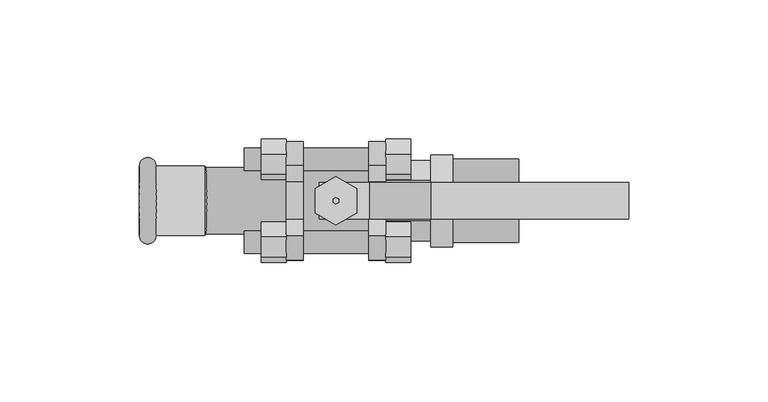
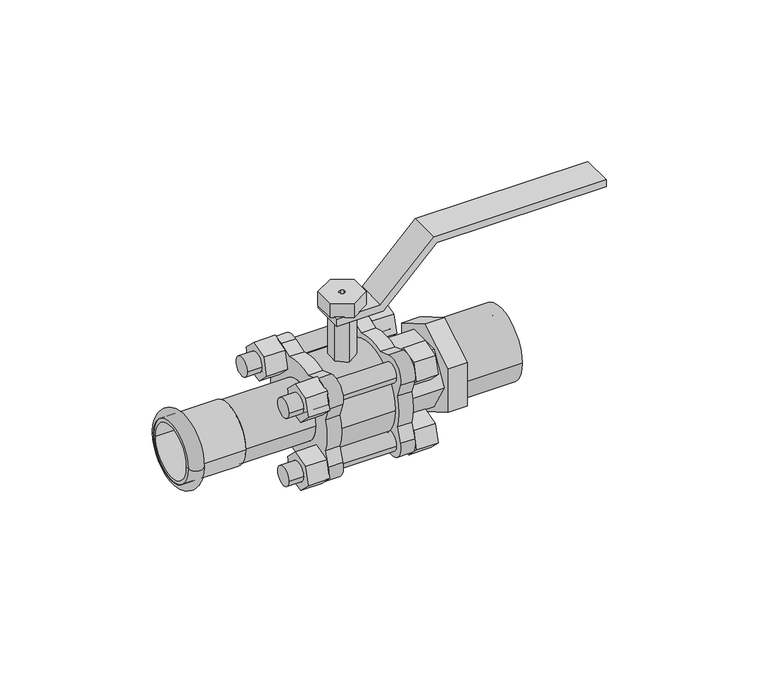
"""IFC4 building model written with IfcOpenShell, lengths in millimetres: valve geometry."""

from ifc_helpers import new_model, si_unit, point, frame, frame_2d, origin, origin_2d, place, context, project, spatial, polyline, circle_curve, ellipse_curve, trimmed, segment, composite_curve, outline, extrude, source, transform, mapped, element, save
from ifc_brep_helpers import plane_surface, cylinder_surface, revolved_surface, advanced_brep


def valve_11d08b45(model_context):
    return source(origin(), model_context, "Body", "SolidModel", [
        extrude(outline(polyline([(36.0, 13.2426407), (58.0, 35.2426407), (58.0, 105.0), (61.0, 105.0), (61.0, 34.0), (39.0, 12.0), (39.0, -6.0), (36.0, -6.0), (36.0, 13.2426407)])), frame((0.0, -6.5625, 0.0), z_axis=(0.0, 1.0, 0.0), x_axis=(0.0, 0.0, 1.0)), (0.0, 0.0, 1.0), 13.125),
        advanced_brep(
        [(-70.5, 12.5, 0.0), (-70.5, -12.5, 0.0), (-64.4987073, -12.5, 0.0), (-64.4987073, 12.5, 0.0)],
        [
            (0, 1, circle_curve(frame((-70.5, 0.0, 0.0), z_axis=(-1.0, 0.0, 0.0), x_axis=(0.0, -1.0, 0.0)), 12.5)),
            (1, 2),
            (2, 3, circle_curve(frame((-64.4987073, 0.0, 0.0), z_axis=(1.0, 0.0, 0.0), x_axis=(0.0, -1.0, 0.0)), 12.5)),
            (3, 0),
            (1, 0, circle_curve(frame((-70.5, 0.0, 0.0), z_axis=(-1.0, 0.0, 0.0), x_axis=(0.0, -1.0, 0.0)), 12.5)),
            (3, 2, circle_curve(frame((-64.4987073, 0.0, 0.0), z_axis=(1.0, 0.0, 0.0), x_axis=(0.0, -1.0, 0.0)), 12.5)),
            (2, 1, circle_curve(frame((-67.4993536, -12.5, 0.0), z_axis=(0.0, 0.0, -1.0), x_axis=(-1.0, 0.0, 0.0)), 3.0006464)),
            (0, 3, circle_curve(frame((-67.4993536, 12.5, 0.0), z_axis=(0.0, 0.0, -1.0), x_axis=(-1.0, 0.0, 0.0)), 3.0006464)),
        ],
        [
            revolved_surface(polyline([(-64.4987073, -12.5, 0.0), (-70.5, -12.5, 0.0)]), (-47.0, 0.0, 0.0), (1.0, 0.0, 0.0)),
            revolved_surface(trimmed(ellipse_curve(frame((-67.4993536, -12.5, 0.0), z_axis=(0.0, 0.0, 1.0), x_axis=(-1.0, 0.0, 0.0)), 3.0006464, 3.0006464), [point((-70.5, -12.5, 0.0))], [point((-64.4987073, -12.5, 0.0))], True, "CARTESIAN"), (-47.0, 0.0, 0.0), (1.0, 0.0, 0.0)),
        ],
        [
            (0, [[1, 2, 3, 4]]),
            (0, [[5, -4, 6, -2]]),
            (1, [[-3, 7, -1, 8]]),
            (1, [[-6, -8, -5, -7]]),
        ],
    ),
        advanced_brep(
        [(-70.5, 11.0, 0.0), (-70.5, -11.0, 0.0), (-46.0, -11.0, 0.0), (-46.0, 11.0, 0.0), (-70.5, 12.5, 0.0), (-70.5, -12.5, 0.0), (-47.0, 12.5, 0.0), (-47.0, -12.5, 0.0)],
        [
            (0, 1, circle_curve(frame((-70.5, 0.0, 0.0), z_axis=(-1.0, 0.0, 0.0), x_axis=(0.0, -1.0, 0.0)), 11.0)),
            (1, 2),
            (2, 3, circle_curve(frame((-46.0, 0.0, 0.0), z_axis=(1.0, 0.0, 0.0), x_axis=(0.0, -1.0, 0.0)), 11.0)),
            (3, 0),
            (1, 0, circle_curve(frame((-70.5, 0.0, 0.0), z_axis=(-1.0, 0.0, 0.0), x_axis=(0.0, -1.0, 0.0)), 11.0)),
            (3, 2, circle_curve(frame((-46.0, 0.0, 0.0), z_axis=(1.0, 0.0, 0.0), x_axis=(0.0, -1.0, 0.0)), 11.0)),
            (4, 5, circle_curve(frame((-70.5, 0.0, 0.0), z_axis=(-1.0, 0.0, 0.0), x_axis=(0.0, -1.0, 0.0)), 12.5)),
            (5, 1),
            (0, 4),
            (5, 4, circle_curve(frame((-70.5, 0.0, 0.0), z_axis=(-1.0, 0.0, 0.0), x_axis=(0.0, -1.0, 0.0)), 12.5)),
            (6, 7, circle_curve(frame((-47.0, 0.0, 0.0), z_axis=(-1.0, 0.0, 0.0), x_axis=(0.0, -1.0, 0.0)), 12.5)),
            (7, 5),
            (4, 6),
            (7, 6, circle_curve(frame((-47.0, 0.0, 0.0), z_axis=(-1.0, 0.0, 0.0), x_axis=(0.0, -1.0, 0.0)), 12.5)),
            (2, 7),
            (6, 3),
        ],
        [
            revolved_surface(polyline([(-46.0, -11.0, 0.0), (-70.5, -11.0, 0.0)]), (-47.0, 0.0, 0.0), (1.0, 0.0, 0.0)),
            plane_surface(frame((-70.5, 0.0, 0.0), z_axis=(-1.0, 0.0, 0.0), x_axis=(0.0, -1.0, 0.0))),
            cylinder_surface(frame((-47.0, 0.0, 0.0), z_axis=(1.0, 0.0, 0.0), x_axis=(0.0, -1.0, 0.0)), 12.5),
            revolved_surface(polyline([(-47.0, -12.5, 0.0), (-46.0, -11.0, 0.0)]), (-47.0, 0.0, 0.0), (1.0, 0.0, 0.0)),
        ],
        [
            (0, [[1, 2, 3, 4]]),
            (0, [[5, -4, 6, -2]]),
            (1, [[7, 8, -1, 9]]),
            (1, [[10, -9, -5, -8]]),
            (2, [[11, 12, -7, 13]]),
            (2, [[14, -13, -10, -12]]),
            (3, [[-3, 15, -11, 16]]),
            (3, [[-6, -16, -14, -15]]),
        ],
    ),
        advanced_brep(
        [(-17.8, -18.8225409, 6.7610617), (-17.8, -20.9572444, 12.6261115), (-17.8, -12.6261115, 20.9572444), (-17.8, -6.7610617, 18.8225409), (-17.8, 6.7610617, 18.8225409), (-17.8, 12.6261115, 20.9572444), (-17.8, 20.9572444, 12.6261115), (-17.8, 18.8225409, 6.7610617), (-17.8, 18.8225409, -6.7610617), (-17.8, 20.9572444, -12.6261115), (-17.8, 12.6261115, -20.9572444), (-17.8, 6.7610617, -18.8225409), (-17.8, -6.7610617, -18.8225409), (-17.8, -12.6261115, -20.9572444), (-17.8, -20.9572444, -12.6261115), (-17.8, -18.8225409, -6.7610617), (-17.8, 12.0, 0.0), (-17.8, -12.0, 0.0), (-11.8, -18.8225409, 6.7610617), (-11.8, -18.8225409, -6.7610617), (-11.8, -20.9572444, -12.6261115), (-11.8, -12.6261115, -20.9572444), (-11.8, -6.7610617, -18.8225409), (-11.8, 6.7610617, -18.8225409), (-11.8, 12.6261115, -20.9572444), (-11.8, 20.9572444, -12.6261115), (-11.8, 18.8225409, -6.7610617), (-11.8, 18.8225409, 6.7610617), (-11.8, 20.9572444, 12.6261115), (-11.8, 12.6261115, 20.9572444), (-11.8, 6.7610617, 18.8225409), (-11.8, -6.7610617, 18.8225409), (-11.8, -12.6261115, 20.9572444), (-11.8, -20.9572444, 12.6261115), (-47.0, -12.0, 0.0), (-47.0, 12.0, 0.0)],
        [
            (0, 1),
            (1, 2, circle_curve(frame((-17.8, -14.8492424, 14.8492424), z_axis=(-1.0, 0.0, 0.0), x_axis=(0.0, 1.0, 0.0)), 6.5)),
            (2, 3),
            (3, 4, circle_curve(frame((-17.8, 0.0, 0.0), z_axis=(-1.0, 0.0, 0.0), x_axis=(0.0, 1.0, 0.0)), 20.0)),
            (4, 5),
            (5, 6, circle_curve(frame((-17.8, 14.8492424, 14.8492424), z_axis=(-1.0, 0.0, 0.0), x_axis=(0.0, 1.0, 0.0)), 6.5)),
            (6, 7),
            (7, 8, circle_curve(frame((-17.8, 0.0, 0.0), z_axis=(-1.0, 0.0, 0.0), x_axis=(0.0, 1.0, 0.0)), 20.0)),
            (8, 9),
            (9, 10, circle_curve(frame((-17.8, 14.8492424, -14.8492424), z_axis=(-1.0, 0.0, 0.0), x_axis=(0.0, 1.0, 0.0)), 6.5)),
            (10, 11),
            (11, 12, circle_curve(frame((-17.8, 0.0, 0.0), z_axis=(-1.0, 0.0, 0.0), x_axis=(0.0, 1.0, 0.0)), 20.0)),
            (12, 13),
            (13, 14, circle_curve(frame((-17.8, -14.8492424, -14.8492424), z_axis=(-1.0, 0.0, 0.0), x_axis=(0.0, 1.0, 0.0)), 6.5)),
            (14, 15),
            (15, 0, circle_curve(frame((-17.8, 0.0, 0.0), z_axis=(-1.0, 0.0, 0.0), x_axis=(0.0, 1.0, 0.0)), 20.0)),
            (16, 17, circle_curve(frame((-17.8, 0.0, 0.0), z_axis=(1.0, 0.0, 0.0), x_axis=(0.0, 1.0, 0.0)), 12.0)),
            (17, 16, circle_curve(frame((-17.8, 0.0, 0.0), z_axis=(1.0, 0.0, 0.0), x_axis=(0.0, 1.0, 0.0)), 12.0)),
            (18, 19, circle_curve(frame((-11.8, 0.0, 0.0), z_axis=(1.0, 0.0, 0.0), x_axis=(0.0, 1.0, 0.0)), 20.0)),
            (19, 20),
            (20, 21, circle_curve(frame((-11.8, -14.8492424, -14.8492424), z_axis=(1.0, 0.0, 0.0), x_axis=(0.0, 1.0, 0.0)), 6.5)),
            (21, 22),
            (22, 23, circle_curve(frame((-11.8, 0.0, 0.0), z_axis=(1.0, 0.0, 0.0), x_axis=(0.0, 1.0, 0.0)), 20.0)),
            (23, 24),
            (24, 25, circle_curve(frame((-11.8, 14.8492424, -14.8492424), z_axis=(1.0, 0.0, 0.0), x_axis=(0.0, 1.0, 0.0)), 6.5)),
            (25, 26),
            (26, 27, circle_curve(frame((-11.8, 0.0, 0.0), z_axis=(1.0, 0.0, 0.0), x_axis=(0.0, 1.0, 0.0)), 20.0)),
            (27, 28),
            (28, 29, circle_curve(frame((-11.8, 14.8492424, 14.8492424), z_axis=(1.0, 0.0, 0.0), x_axis=(0.0, 1.0, 0.0)), 6.5)),
            (29, 30),
            (30, 31, circle_curve(frame((-11.8, 0.0, 0.0), z_axis=(1.0, 0.0, 0.0), x_axis=(0.0, 1.0, 0.0)), 20.0)),
            (31, 32),
            (32, 33, circle_curve(frame((-11.8, -14.8492424, 14.8492424), z_axis=(1.0, 0.0, 0.0), x_axis=(0.0, 1.0, 0.0)), 6.5)),
            (33, 18),
            (0, 18),
            (33, 1),
            (32, 2),
            (31, 3),
            (30, 4),
            (29, 5),
            (28, 6),
            (27, 7),
            (26, 8),
            (25, 9),
            (24, 10),
            (23, 11),
            (22, 12),
            (21, 13),
            (20, 14),
            (19, 15),
            (34, 35, circle_curve(frame((-47.0, 0.0, 0.0), z_axis=(-1.0, 0.0, 0.0), x_axis=(0.0, 1.0, 0.0)), 12.0)),
            (35, 34, circle_curve(frame((-47.0, 0.0, 0.0), z_axis=(-1.0, 0.0, 0.0), x_axis=(0.0, 1.0, 0.0)), 12.0)),
            (34, 17),
            (16, 35),
        ],
        [
            plane_surface(frame((-17.8, 0.0, 0.0), z_axis=(-1.0, 0.0, 0.0), x_axis=(0.0, 0.0, 1.0))),
            plane_surface(frame((-11.8, 0.0, 0.0), z_axis=(1.0, 0.0, 0.0), x_axis=(0.0, 0.0, 1.0))),
            plane_surface(frame((-17.8, -18.8225409, 6.7610617), z_axis=(0.0, -0.939692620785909, -0.34202014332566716), x_axis=(1.0, 0.0, 0.0))),
            cylinder_surface(frame((-17.8, -14.8492424, 14.8492424), z_axis=(-1.0, 0.0, 0.0), x_axis=(0.0, 1.0, 0.0)), 6.5),
            plane_surface(frame((-17.8, -12.6261115, 20.9572444), z_axis=(0.0, 0.34202014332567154, 0.9396926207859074), x_axis=(1.0, 0.0, 0.0))),
            cylinder_surface(frame((-17.8, 0.0, 0.0), z_axis=(-1.0, 0.0, 0.0), x_axis=(0.0, 1.0, 0.0)), 20.0),
            plane_surface(frame((-17.8, 6.7610617, 18.8225409), z_axis=(0.0, -0.34202014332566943, 0.9396926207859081), x_axis=(1.0, 0.0, 0.0))),
            cylinder_surface(frame((-17.8, 14.8492424, 14.8492424), z_axis=(-1.0, 0.0, 0.0), x_axis=(0.0, 1.0, 0.0)), 6.5),
            plane_surface(frame((-17.8, 20.9572444, 12.6261115), z_axis=(0.0, 0.9396926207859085, -0.3420201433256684), x_axis=(1.0, 0.0, 0.0))),
            plane_surface(frame((-17.8, 18.8225409, -6.7610617), z_axis=(0.0, 0.939692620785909, 0.3420201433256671), x_axis=(1.0, 0.0, 0.0))),
            cylinder_surface(frame((-17.8, 14.8492424, -14.8492424), z_axis=(-1.0, 0.0, 0.0), x_axis=(0.0, 1.0, 0.0)), 6.5),
            plane_surface(frame((-17.8, 12.6261115, -20.9572444), z_axis=(0.0, -0.3420201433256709, -0.9396926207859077), x_axis=(1.0, 0.0, 0.0))),
            plane_surface(frame((-17.8, -6.7610617, -18.8225409), z_axis=(0.0, 0.3420201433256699, -0.9396926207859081), x_axis=(1.0, 0.0, 0.0))),
            cylinder_surface(frame((-17.8, -14.8492424, -14.8492424), z_axis=(-1.0, 0.0, 0.0), x_axis=(0.0, 1.0, 0.0)), 6.5),
            plane_surface(frame((-17.8, -20.9572444, -12.6261115), z_axis=(0.0, -0.9396926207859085, 0.3420201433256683), x_axis=(1.0, 0.0, 0.0))),
            plane_surface(frame((-47.0, 0.0, 0.0), z_axis=(-1.0, 0.0, 0.0), x_axis=(0.0, 0.0, 1.0))),
            cylinder_surface(frame((-47.0, 0.0, 0.0), z_axis=(-1.0, 0.0, 0.0), x_axis=(0.0, 1.0, 0.0)), 12.0),
        ],
        [
            (0, [[1, 2, 3, 4, 5, 6, 7, 8, 9, 10, 11, 12, 13, 14, 15, 16], [17, 18]]),
            (1, [[19, 20, 21, 22, 23, 24, 25, 26, 27, 28, 29, 30, 31, 32, 33, 34]]),
            (2, [[-1, 35, -34, 36]]),
            (3, [[-2, -36, -33, 37]]),
            (4, [[-3, -37, -32, 38]]),
            (5, [[-4, -38, -31, 39]]),
            (6, [[-5, -39, -30, 40]]),
            (7, [[-6, -40, -29, 41]]),
            (8, [[-7, -41, -28, 42]]),
            (5, [[-8, -42, -27, 43]]),
            (9, [[-9, -43, -26, 44]]),
            (10, [[-10, -44, -25, 45]]),
            (11, [[-11, -45, -24, 46]]),
            (5, [[-12, -46, -23, 47]]),
            (12, [[-13, -47, -22, 48]]),
            (13, [[-14, -48, -21, 49]]),
            (14, [[-15, -49, -20, 50]]),
            (5, [[-16, -50, -19, -35]]),
            (15, [[51, 52]]),
            (16, [[-51, 53, -17, 54]]),
            (16, [[-52, -54, -18, -53]]),
        ],
    ),
        extrude(outline(composite_curve([segment(trimmed(circle_curve(origin_2d(), 15.0), [point((-15.0, 0.0))], [point((15.0, 0.0))], False, "CARTESIAN"), True, "CONTINUOUS"), segment(trimmed(circle_curve(origin_2d(), 15.0), [point((15.0, 0.0))], [point((-15.0, 0.0))], False, "CARTESIAN"), True, "CONTINUOUS")], self_intersect=False), holes=[composite_curve([segment(trimmed(circle_curve(origin_2d(), 10.0), [point((-10.0, 0.0))], [point((10.0, 0.0))], True, "CARTESIAN"), True, "CONTINUOUS"), segment(trimmed(circle_curve(origin_2d(), 10.0), [point((10.0, 0.0))], [point((-10.0, 0.0))], True, "CARTESIAN"), True, "CONTINUOUS")], self_intersect=False)]), frame((42.0, 0.0, 0.0), z_axis=(1.0, 0.0, 0.0), x_axis=(0.0, 1.0, 0.0)), (0.0, 0.0, 1.0), 23.5),
        extrude(outline(polyline([(16.5, -9.5262794), (0.0, -19.0525589), (-16.5, -9.5262794), (-16.5, 9.5262794), (0.0, 19.0525589), (16.5, 9.5262794), (16.5, -9.5262794)]), holes=[composite_curve([segment(trimmed(circle_curve(origin_2d(), 10.0), [point((10.0, 0.0))], [point((-10.0, 0.0))], True, "CARTESIAN"), True, "CONTINUOUS"), segment(trimmed(circle_curve(origin_2d(), 10.0), [point((-10.0, 0.0))], [point((10.0, 0.0))], True, "CARTESIAN"), True, "CONTINUOUS")], self_intersect=False)]), frame((34.0, 0.0, 0.0), z_axis=(1.0, 0.0, 0.0), x_axis=(0.0, 1.0, 0.0)), (0.0, 0.0, 1.0), 8.0),
        advanced_brep(
        [(11.8, -18.8225409, 6.7610617), (11.8, -20.9572444, 12.6261115), (11.8, -12.6261115, 20.9572444), (11.8, -6.7610617, 18.8225409), (11.8, 6.7610617, 18.8225409), (11.8, 12.6261115, 20.9572444), (11.8, 20.9572444, 12.6261115), (11.8, 18.8225409, 6.7610617), (11.8, 18.8225409, -6.7610617), (11.8, 20.9572444, -12.6261115), (11.8, 12.6261115, -20.9572444), (11.8, 6.7610617, -18.8225409), (11.8, -6.7610617, -18.8225409), (11.8, -12.6261115, -20.9572444), (11.8, -20.9572444, -12.6261115), (11.8, -18.8225409, -6.7610617), (11.8, -14.4337567, 0.0), (11.8, -7.2168784, -12.5), (11.8, 7.2168784, -12.5), (11.8, 14.4337567, 0.0), (11.8, 7.2168784, 12.5), (11.8, -7.2168784, 12.5), (11.8, -1.1547005, -2.0), (11.8, -2.3094011, 0.0), (11.8, -1.1547005, 2.0), (11.8, 1.1547005, 2.0), (11.8, 2.3094011, 0.0), (11.8, 1.1547005, -2.0), (17.8, -18.8225409, 6.7610617), (17.8, -18.8225409, -6.7610617), (17.8, -20.9572444, -12.6261115), (17.8, -12.6261115, -20.9572444), (17.8, -6.7610617, -18.8225409), (17.8, 6.7610617, -18.8225409), (17.8, 12.6261115, -20.9572444), (17.8, 20.9572444, -12.6261115), (17.8, 18.8225409, -6.7610617), (17.8, 18.8225409, 6.7610617), (17.8, 20.9572444, 12.6261115), (17.8, 12.6261115, 20.9572444), (17.8, 6.7610617, 18.8225409), (17.8, -6.7610617, 18.8225409), (17.8, -12.6261115, 20.9572444), (17.8, -20.9572444, 12.6261115), (17.8, -7.2168784, -12.5), (17.8, -14.4337567, 0.0), (17.8, -7.2168784, 12.5), (17.8, 7.2168784, 12.5), (17.8, 14.4337567, 0.0), (17.8, 7.2168784, -12.5), (17.8, -2.3094011, 0.0), (17.8, -1.1547005, -2.0), (17.8, 1.1547005, -2.0), (17.8, 2.3094011, 0.0), (17.8, 1.1547005, 2.0), (17.8, -1.1547005, 2.0), (0.0, -1.1547005, -2.0), (0.0, -2.3094011, 0.0), (34.0, -2.3094011, 0.0), (34.0, -1.1547005, -2.0), (34.0, -7.2168784, -12.5), (34.0, -14.4337567, 0.0), (0.0, -14.4337567, 0.0), (0.0, -7.2168784, -12.5), (0.0, -1.1547005, 2.0), (34.0, -1.1547005, 2.0), (34.0, -7.2168784, 12.5), (0.0, -7.2168784, 12.5), (0.0, 1.1547005, 2.0), (34.0, 1.1547005, 2.0), (34.0, 7.2168784, 12.5), (0.0, 7.2168784, 12.5), (0.0, 2.3094011, 0.0), (34.0, 2.3094011, 0.0), (34.0, 14.4337567, 0.0), (0.0, 14.4337567, 0.0), (0.0, 1.1547005, -2.0), (34.0, 1.1547005, -2.0), (34.0, 7.2168784, -12.5), (0.0, 7.2168784, -12.5)],
        [
            (0, 1),
            (1, 2, circle_curve(frame((11.8, -14.8492424, 14.8492424), z_axis=(-1.0, 0.0, 0.0), x_axis=(0.0, 1.0, 0.0)), 6.5)),
            (2, 3),
            (3, 4, circle_curve(frame((11.8, 0.0, 0.0), z_axis=(-1.0, 0.0, 0.0), x_axis=(0.0, 1.0, 0.0)), 20.0)),
            (4, 5),
            (5, 6, circle_curve(frame((11.8, 14.8492424, 14.8492424), z_axis=(-1.0, 0.0, 0.0), x_axis=(0.0, 1.0, 0.0)), 6.5)),
            (6, 7),
            (7, 8, circle_curve(frame((11.8, 0.0, 0.0), z_axis=(-1.0, 0.0, 0.0), x_axis=(0.0, 1.0, 0.0)), 20.0)),
            (8, 9),
            (9, 10, circle_curve(frame((11.8, 14.8492424, -14.8492424), z_axis=(-1.0, 0.0, 0.0), x_axis=(0.0, 1.0, 0.0)), 6.5)),
            (10, 11),
            (11, 12, circle_curve(frame((11.8, 0.0, 0.0), z_axis=(-1.0, 0.0, 0.0), x_axis=(0.0, 1.0, 0.0)), 20.0)),
            (12, 13),
            (13, 14, circle_curve(frame((11.8, -14.8492424, -14.8492424), z_axis=(-1.0, 0.0, 0.0), x_axis=(0.0, 1.0, 0.0)), 6.5)),
            (14, 15),
            (15, 0, circle_curve(frame((11.8, 0.0, 0.0), z_axis=(-1.0, 0.0, 0.0), x_axis=(0.0, 1.0, 0.0)), 20.0)),
            (16, 17),
            (17, 18),
            (18, 19),
            (19, 20),
            (20, 21),
            (21, 16),
            (22, 23),
            (23, 24),
            (24, 25),
            (25, 26),
            (26, 27),
            (27, 22),
            (28, 29, circle_curve(frame((17.8, 0.0, 0.0), z_axis=(1.0, 0.0, 0.0), x_axis=(0.0, 1.0, 0.0)), 20.0)),
            (29, 30),
            (30, 31, circle_curve(frame((17.8, -14.8492424, -14.8492424), z_axis=(1.0, 0.0, 0.0), x_axis=(0.0, 1.0, 0.0)), 6.5)),
            (31, 32),
            (32, 33, circle_curve(frame((17.8, 0.0, 0.0), z_axis=(1.0, 0.0, 0.0), x_axis=(0.0, 1.0, 0.0)), 20.0)),
            (33, 34),
            (34, 35, circle_curve(frame((17.8, 14.8492424, -14.8492424), z_axis=(1.0, 0.0, 0.0), x_axis=(0.0, 1.0, 0.0)), 6.5)),
            (35, 36),
            (36, 37, circle_curve(frame((17.8, 0.0, 0.0), z_axis=(1.0, 0.0, 0.0), x_axis=(0.0, 1.0, 0.0)), 20.0)),
            (37, 38),
            (38, 39, circle_curve(frame((17.8, 14.8492424, 14.8492424), z_axis=(1.0, 0.0, 0.0), x_axis=(0.0, 1.0, 0.0)), 6.5)),
            (39, 40),
            (40, 41, circle_curve(frame((17.8, 0.0, 0.0), z_axis=(1.0, 0.0, 0.0), x_axis=(0.0, 1.0, 0.0)), 20.0)),
            (41, 42),
            (42, 43, circle_curve(frame((17.8, -14.8492424, 14.8492424), z_axis=(1.0, 0.0, 0.0), x_axis=(0.0, 1.0, 0.0)), 6.5)),
            (43, 28),
            (44, 45),
            (45, 46),
            (46, 47),
            (47, 48),
            (48, 49),
            (49, 44),
            (50, 51),
            (51, 52),
            (52, 53),
            (53, 54),
            (54, 55),
            (55, 50),
            (0, 28),
            (43, 1),
            (42, 2),
            (41, 3),
            (40, 4),
            (39, 5),
            (38, 6),
            (37, 7),
            (36, 8),
            (35, 9),
            (34, 10),
            (33, 11),
            (32, 12),
            (31, 13),
            (30, 14),
            (29, 15),
            (56, 57),
            (57, 23),
            (22, 56),
            (58, 59),
            (59, 51),
            (50, 58),
            (60, 61),
            (61, 45),
            (44, 60),
            (62, 63),
            (63, 17),
            (16, 62),
            (57, 64),
            (64, 24),
            (65, 58),
            (55, 65),
            (61, 66),
            (66, 46),
            (67, 62),
            (21, 67),
            (64, 68),
            (68, 25),
            (69, 65),
            (54, 69),
            (66, 70),
            (70, 47),
            (71, 67),
            (20, 71),
            (68, 72),
            (72, 26),
            (73, 69),
            (53, 73),
            (70, 74),
            (74, 48),
            (75, 71),
            (19, 75),
            (72, 76),
            (76, 27),
            (77, 73),
            (52, 77),
            (74, 78),
            (78, 49),
            (79, 75),
            (18, 79),
            (60, 78),
            (77, 59),
            (76, 56),
            (79, 63),
        ],
        [
            plane_surface(frame((11.8, 0.0, 0.0), z_axis=(-1.0, 0.0, 0.0), x_axis=(0.0, 0.0, 1.0))),
            plane_surface(frame((17.8, 0.0, 0.0), z_axis=(1.0, 0.0, 0.0), x_axis=(0.0, 0.0, 1.0))),
            plane_surface(frame((11.8, -18.8225409, 6.7610617), z_axis=(0.0, -0.939692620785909, -0.34202014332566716), x_axis=(1.0, 0.0, 0.0))),
            cylinder_surface(frame((11.8, -14.8492424, 14.8492424), z_axis=(-1.0, 0.0, 0.0), x_axis=(0.0, 1.0, 0.0)), 6.5),
            plane_surface(frame((11.8, -12.6261115, 20.9572444), z_axis=(0.0, 0.34202014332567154, 0.9396926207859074), x_axis=(1.0, 0.0, 0.0))),
            cylinder_surface(frame((11.8, 0.0, 0.0), z_axis=(-1.0, 0.0, 0.0), x_axis=(0.0, 1.0, 0.0)), 20.0),
            plane_surface(frame((11.8, 6.7610617, 18.8225409), z_axis=(0.0, -0.34202014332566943, 0.9396926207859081), x_axis=(1.0, 0.0, 0.0))),
            cylinder_surface(frame((11.8, 14.8492424, 14.8492424), z_axis=(-1.0, 0.0, 0.0), x_axis=(0.0, 1.0, 0.0)), 6.5),
            plane_surface(frame((11.8, 20.9572444, 12.6261115), z_axis=(0.0, 0.9396926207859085, -0.3420201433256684), x_axis=(1.0, 0.0, 0.0))),
            plane_surface(frame((11.8, 18.8225409, -6.7610617), z_axis=(0.0, 0.939692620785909, 0.3420201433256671), x_axis=(1.0, 0.0, 0.0))),
            cylinder_surface(frame((11.8, 14.8492424, -14.8492424), z_axis=(-1.0, 0.0, 0.0), x_axis=(0.0, 1.0, 0.0)), 6.5),
            plane_surface(frame((11.8, 12.6261115, -20.9572444), z_axis=(0.0, -0.3420201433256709, -0.9396926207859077), x_axis=(1.0, 0.0, 0.0))),
            plane_surface(frame((11.8, -6.7610617, -18.8225409), z_axis=(0.0, 0.3420201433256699, -0.9396926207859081), x_axis=(1.0, 0.0, 0.0))),
            cylinder_surface(frame((11.8, -14.8492424, -14.8492424), z_axis=(-1.0, 0.0, 0.0), x_axis=(0.0, 1.0, 0.0)), 6.5),
            plane_surface(frame((11.8, -20.9572444, -12.6261115), z_axis=(0.0, -0.9396926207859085, 0.3420201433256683), x_axis=(1.0, 0.0, 0.0))),
            plane_surface(frame((0.0, -1.1547005, -2.0), z_axis=(0.0, 0.8660254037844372, 0.5000000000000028), x_axis=(0.0, -0.5000000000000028, 0.8660254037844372))),
            plane_surface(frame((34.0, -7.2168784, -12.5), z_axis=(0.0, -0.866025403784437, -0.5000000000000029), x_axis=(0.0, -0.5000000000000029, 0.866025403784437))),
            plane_surface(frame((0.0, -2.3094011, 0.0), z_axis=(0.0, 0.8660254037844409, -0.49999999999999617), x_axis=(0.0, 0.49999999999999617, 0.8660254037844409))),
            plane_surface(frame((34.0, -14.4337567, 0.0), z_axis=(0.0, -0.866025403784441, 0.49999999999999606), x_axis=(0.0, 0.49999999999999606, 0.866025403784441))),
            plane_surface(frame((0.0, -1.1547005, 2.0), z_axis=(0.0, 0.0, -1.0), x_axis=(0.0, 1.0, 0.0))),
            plane_surface(frame((34.0, -7.2168784, 12.5), z_axis=(0.0, 0.0, 1.0), x_axis=(0.0, 1.0, 0.0))),
            plane_surface(frame((0.0, 1.1547005, 2.0), z_axis=(0.0, -0.8660254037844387, -0.4999999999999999), x_axis=(0.0, 0.4999999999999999, -0.8660254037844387))),
            plane_surface(frame((34.0, 7.2168784, 12.5), z_axis=(0.0, 0.8660254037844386, 0.5000000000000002), x_axis=(0.0, 0.5000000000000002, -0.8660254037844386))),
            plane_surface(frame((0.0, 2.3094011, 0.0), z_axis=(0.0, -0.8660254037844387, 0.5), x_axis=(0.0, -0.5, -0.8660254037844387))),
            plane_surface(frame((34.0, 14.4337567, 0.0), z_axis=(0.0, 0.8660254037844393, -0.49999999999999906), x_axis=(0.0, -0.49999999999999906, -0.8660254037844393))),
            plane_surface(frame((34.0, 1.1547005, -2.0), z_axis=(1.0, 0.0, 0.0), x_axis=(0.0, -1.0, 0.0))),
            plane_surface(frame((0.0, 1.1547005, -2.0), z_axis=(0.0, 0.0, 1.0), x_axis=(0.0, -1.0, 0.0))),
            plane_surface(frame((0.0, 7.2168784, -12.5), z_axis=(-1.0, 0.0, 0.0), x_axis=(0.0, -1.0, 0.0))),
            plane_surface(frame((34.0, 7.2168784, -12.5), z_axis=(0.0, 0.0, -1.0), x_axis=(0.0, -1.0, 0.0))),
        ],
        [
            (0, [[1, 2, 3, 4, 5, 6, 7, 8, 9, 10, 11, 12, 13, 14, 15, 16], [17, 18, 19, 20, 21, 22]]),
            (0, [[23, 24, 25, 26, 27, 28]]),
            (1, [[29, 30, 31, 32, 33, 34, 35, 36, 37, 38, 39, 40, 41, 42, 43, 44], [45, 46, 47, 48, 49, 50]]),
            (1, [[51, 52, 53, 54, 55, 56]]),
            (2, [[-1, 57, -44, 58]]),
            (3, [[-2, -58, -43, 59]]),
            (4, [[-3, -59, -42, 60]]),
            (5, [[-4, -60, -41, 61]]),
            (6, [[-5, -61, -40, 62]]),
            (7, [[-6, -62, -39, 63]]),
            (8, [[-7, -63, -38, 64]]),
            (5, [[-8, -64, -37, 65]]),
            (9, [[-9, -65, -36, 66]]),
            (10, [[-10, -66, -35, 67]]),
            (11, [[-11, -67, -34, 68]]),
            (5, [[-12, -68, -33, 69]]),
            (12, [[-13, -69, -32, 70]]),
            (13, [[-14, -70, -31, 71]]),
            (14, [[-15, -71, -30, 72]]),
            (5, [[-16, -72, -29, -57]]),
            (15, [[73, 74, -23, 75]]),
            (15, [[76, 77, -51, 78]]),
            (16, [[79, 80, -45, 81]]),
            (16, [[82, 83, -17, 84]]),
            (17, [[85, 86, -24, -74]]),
            (17, [[87, -78, -56, 88]]),
            (18, [[89, 90, -46, -80]]),
            (18, [[91, -84, -22, 92]]),
            (19, [[93, 94, -25, -86]]),
            (19, [[95, -88, -55, 96]]),
            (20, [[97, 98, -47, -90]]),
            (20, [[99, -92, -21, 100]]),
            (21, [[101, 102, -26, -94]]),
            (21, [[103, -96, -54, 104]]),
            (22, [[105, 106, -48, -98]]),
            (22, [[107, -100, -20, 108]]),
            (23, [[109, 110, -27, -102]]),
            (23, [[111, -104, -53, 112]]),
            (24, [[113, 114, -49, -106]]),
            (24, [[115, -108, -19, 116]]),
            (25, [[-79, 117, -113, -105, -97, -89], [-76, -87, -95, -103, -111, 118]]),
            (26, [[-118, -112, -52, -77]]),
            (26, [[119, -75, -28, -110]]),
            (27, [[-82, -91, -99, -107, -115, 120], [-73, -119, -109, -101, -93, -85]]),
            (28, [[-117, -81, -50, -114]]),
            (28, [[-120, -116, -18, -83]]),
        ],
    ),
        advanced_brep(
        [(-11.8, -18.0, 0.0), (-11.8, 18.0, 0.0), (11.8, -18.0, 0.0), (11.8, 18.0, 0.0), (0.0, -5.1961524, 17.2336879), (-4.5, -2.5980762, 17.8115131), (-4.5, 2.5980762, 17.8115131), (0.0, 5.1961524, 17.2336879), (4.5, 2.5980762, 17.8115131), (4.5, -2.5980762, 17.8115131), (-1.0, -0.5773503, 17.9907384), (0.0, -1.1547005, 17.9629248), (1.0, -0.5773503, 17.9907384), (1.0, 0.5773503, 17.9907384), (0.0, 1.1547005, 17.9629248), (-1.0, 0.5773503, 17.9907384), (-7.5, -4.330127, 45.0), (-7.5, -4.330127, 39.0), (0.0, -8.660254, 39.0), (0.0, -8.660254, 45.0), (-1.0, -0.5773503, 45.0), (0.0, -1.1547005, 45.0), (0.0, -5.1961524, 39.0), (-4.5, -2.5980762, 39.0), (7.5, -4.330127, 39.0), (7.5, -4.330127, 45.0), (1.0, -0.5773503, 45.0), (4.5, -2.5980762, 39.0), (7.5, 4.330127, 45.0), (7.5, 4.330127, 39.0), (0.0, 8.660254, 39.0), (0.0, 8.660254, 45.0), (1.0, 0.5773503, 45.0), (0.0, 1.1547005, 45.0), (0.0, 5.1961524, 39.0), (4.5, 2.5980762, 39.0), (-7.5, 4.330127, 39.0), (-7.5, 4.330127, 45.0), (-1.0, 0.5773503, 45.0), (-4.5, 2.5980762, 39.0)],
        [
            (0, 1, circle_curve(frame((-11.8, 0.0, 0.0), z_axis=(-1.0, 0.0, 0.0), x_axis=(0.0, 1.0, 0.0)), 18.0)),
            (1, 0, circle_curve(frame((-11.8, 0.0, 0.0), z_axis=(-1.0, 0.0, 0.0), x_axis=(0.0, 1.0, 0.0)), 18.0)),
            (2, 3, circle_curve(frame((11.8, 0.0, 0.0), z_axis=(1.0, 0.0, 0.0), x_axis=(0.0, 1.0, 0.0)), 18.0)),
            (3, 2, circle_curve(frame((11.8, 0.0, 0.0), z_axis=(1.0, 0.0, 0.0), x_axis=(0.0, 1.0, 0.0)), 18.0)),
            (0, 2),
            (3, 1),
            (4, 5, ellipse_curve(frame((-9.0, 0.0, 0.0), z_axis=(-0.5000000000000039, -0.8660254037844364, 0.0), x_axis=(-0.8660254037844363, 0.5000000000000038, 0.0)), 36.0, 18.0)),
            (5, 6, circle_curve(frame((-4.5, 0.0, 0.0), z_axis=(-1.0, 0.0, 0.0), x_axis=(0.0, 1.0, 0.0)), 18.0)),
            (6, 7, ellipse_curve(frame((-9.0, 0.0, 0.0), z_axis=(-0.49999999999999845, 0.8660254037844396, 0.0), x_axis=(-0.8660254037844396, -0.4999999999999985, 0.0)), 36.0, 18.0)),
            (7, 8, ellipse_curve(frame((9.0, 0.0, 0.0), z_axis=(0.5000000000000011, 0.866025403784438, 0.0), x_axis=(-0.8660254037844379, 0.5000000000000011, 0.0)), 36.0, 18.0)),
            (8, 9, circle_curve(frame((4.5, 0.0, 0.0), z_axis=(1.0, 0.0, 0.0), x_axis=(0.0, 1.0, 0.0)), 18.0)),
            (9, 4, ellipse_curve(frame((9.0, 0.0, 0.0), z_axis=(0.4999999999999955, -0.8660254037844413, 0.0), x_axis=(-0.8660254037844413, -0.49999999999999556, 0.0)), 36.0, 18.0)),
            (10, 11, ellipse_curve(frame((-2.0, 0.0, 0.0), z_axis=(0.5000000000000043, 0.8660254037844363, 0.0), x_axis=(-0.866025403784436, 0.5000000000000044, 0.0)), 36.0, 18.0)),
            (11, 12, ellipse_curve(frame((2.0, 0.0, 0.0), z_axis=(-0.4999999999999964, 0.8660254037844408, 0.0), x_axis=(-0.8660254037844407, -0.4999999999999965, 0.0)), 36.0, 18.0)),
            (12, 13, circle_curve(frame((1.0, 0.0, 0.0), z_axis=(-1.0, 0.0, 0.0), x_axis=(0.0, 1.0, 0.0)), 18.0)),
            (13, 14, ellipse_curve(frame((2.0, 0.0, 0.0), z_axis=(-0.49999999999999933, -0.866025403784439, 0.0), x_axis=(-0.866025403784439, 0.4999999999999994, 0.0)), 36.0, 18.0)),
            (14, 15, ellipse_curve(frame((-2.0, 0.0, 0.0), z_axis=(0.49999999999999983, -0.8660254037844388, 0.0), x_axis=(-0.8660254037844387, -0.4999999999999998, 0.0)), 36.0, 18.0)),
            (15, 10, circle_curve(frame((-1.0, 0.0, 0.0), z_axis=(1.0, 0.0, 0.0), x_axis=(0.0, 1.0, 0.0)), 18.0)),
            (16, 17),
            (17, 18),
            (18, 19),
            (19, 16),
            (20, 21),
            (21, 11),
            (10, 20),
            (22, 23),
            (23, 5),
            (4, 22),
            (18, 24),
            (24, 25),
            (25, 19),
            (21, 26),
            (26, 12),
            (27, 22),
            (9, 27),
            (28, 29),
            (29, 30),
            (30, 31),
            (31, 28),
            (32, 33),
            (33, 14),
            (13, 32),
            (34, 35),
            (35, 8),
            (7, 34),
            (30, 36),
            (36, 37),
            (37, 31),
            (33, 38),
            (38, 15),
            (39, 34),
            (6, 39),
            (24, 29),
            (28, 25),
            (26, 32),
            (35, 27),
            (17, 36),
            (39, 23),
            (16, 37),
            (20, 38),
        ],
        [
            plane_surface(frame((-11.8, 0.0, 0.0), z_axis=(-1.0, 0.0, 0.0), x_axis=(0.0, 0.0, 1.0))),
            plane_surface(frame((11.8, 0.0, 0.0), z_axis=(1.0, 0.0, 0.0), x_axis=(0.0, 0.0, 1.0))),
            cylinder_surface(frame((-11.8, 0.0, 0.0), z_axis=(-1.0, 0.0, 0.0), x_axis=(0.0, 1.0, 0.0)), 18.0),
            plane_surface(frame((-7.5, -4.330127, 39.0), z_axis=(-0.5000000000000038, -0.8660254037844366, 0.0), x_axis=(0.8660254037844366, -0.5000000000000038, 0.0))),
            plane_surface(frame((-1.0, -0.5773503, 45.0), z_axis=(0.5000000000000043, 0.8660254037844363, 0.0), x_axis=(0.8660254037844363, -0.5000000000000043, 0.0))),
            plane_surface(frame((-4.5, -2.5980762, 0.0), z_axis=(-0.5000000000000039, -0.8660254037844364, 0.0), x_axis=(0.8660254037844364, -0.5000000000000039, 0.0))),
            plane_surface(frame((0.0, -8.660254, 39.0), z_axis=(0.49999999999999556, -0.8660254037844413, 0.0), x_axis=(0.8660254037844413, 0.49999999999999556, 0.0))),
            plane_surface(frame((0.0, -1.1547005, 45.0), z_axis=(-0.4999999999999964, 0.8660254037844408, 0.0), x_axis=(0.8660254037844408, 0.4999999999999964, 0.0))),
            plane_surface(frame((0.0, -5.1961524, 0.0), z_axis=(0.4999999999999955, -0.8660254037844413, 0.0), x_axis=(0.8660254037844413, 0.4999999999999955, 0.0))),
            plane_surface(frame((7.5, 4.330127, 39.0), z_axis=(0.5000000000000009, 0.8660254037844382, 0.0), x_axis=(-0.8660254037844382, 0.5000000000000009, 0.0))),
            plane_surface(frame((1.0, 0.5773503, 45.0), z_axis=(-0.49999999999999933, -0.866025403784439, 0.0), x_axis=(-0.866025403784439, 0.49999999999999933, 0.0))),
            plane_surface(frame((4.5, 2.5980762, 0.0), z_axis=(0.5000000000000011, 0.866025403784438, 0.0), x_axis=(-0.866025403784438, 0.5000000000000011, 0.0))),
            plane_surface(frame((0.0, 8.660254, 39.0), z_axis=(-0.4999999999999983, 0.8660254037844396, 0.0), x_axis=(-0.8660254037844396, -0.4999999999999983, 0.0))),
            plane_surface(frame((0.0, 1.1547005, 45.0), z_axis=(0.49999999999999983, -0.8660254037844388, 0.0), x_axis=(-0.8660254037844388, -0.49999999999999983, 0.0))),
            plane_surface(frame((0.0, 5.1961524, 0.0), z_axis=(-0.49999999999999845, 0.8660254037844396, 0.0), x_axis=(-0.8660254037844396, -0.49999999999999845, 0.0))),
            plane_surface(frame((7.5, -4.330127, 39.0), z_axis=(1.0, 0.0, 0.0), x_axis=(0.0, 1.0, 0.0))),
            plane_surface(frame((1.0, -0.5773503, 45.0), z_axis=(-1.0, 0.0, 0.0), x_axis=(0.0, 1.0, 0.0))),
            plane_surface(frame((4.5, -2.5980762, 0.0), z_axis=(1.0, 0.0, 0.0), x_axis=(0.0, 1.0, 0.0))),
            plane_surface(frame((-4.5, 2.5980762, 39.0), z_axis=(0.0, 0.0, -1.0), x_axis=(0.0, -1.0, 0.0))),
            plane_surface(frame((-7.5, 4.330127, 39.0), z_axis=(-1.0, 0.0, 0.0), x_axis=(0.0, -1.0, 0.0))),
            plane_surface(frame((-7.5, 4.330127, 45.0), z_axis=(0.0, 0.0, 1.0), x_axis=(0.0, -1.0, 0.0))),
            plane_surface(frame((-1.0, 0.5773503, 45.0), z_axis=(1.0, 0.0, 0.0), x_axis=(0.0, -1.0, 0.0))),
            plane_surface(frame((-4.5, 2.5980762, 0.0), z_axis=(-1.0, 0.0, 0.0), x_axis=(0.0, -1.0, 0.0))),
        ],
        [
            (0, [[1, 2]]),
            (1, [[3, 4]]),
            (2, [[-1, 5, -4, 6], [7, 8, 9, 10, 11, 12]]),
            (2, [[13, 14, 15, 16, 17, 18]]),
            (2, [[-2, -6, -3, -5]]),
            (3, [[19, 20, 21, 22]]),
            (4, [[23, 24, -13, 25]]),
            (5, [[26, 27, -7, 28]]),
            (6, [[-21, 29, 30, 31]]),
            (7, [[32, 33, -14, -24]]),
            (8, [[34, -28, -12, 35]]),
            (9, [[36, 37, 38, 39]]),
            (10, [[40, 41, -16, 42]]),
            (11, [[43, 44, -10, 45]]),
            (12, [[-38, 46, 47, 48]]),
            (13, [[49, 50, -17, -41]]),
            (14, [[51, -45, -9, 52]]),
            (15, [[-30, 53, -36, 54]]),
            (16, [[55, -42, -15, -33]]),
            (17, [[56, -35, -11, -44]]),
            (18, [[-20, 57, -46, -37, -53, -29], [-26, -34, -56, -43, -51, 58]]),
            (19, [[-19, 59, -47, -57]]),
            (20, [[-22, -31, -54, -39, -48, -59], [-23, 60, -49, -40, -55, -32]]),
            (21, [[-60, -25, -18, -50]]),
            (22, [[-58, -52, -8, -27]]),
        ],
    ),
        extrude(outline(polyline([(20.1564702, 9.5420146), (12.9066622, 7.5994344), (7.5994344, 12.9066622), (9.5420146, 20.1564702), (16.7918226, 22.0990504), (22.0990504, 16.7918226), (20.1564702, 9.5420146)]), holes=[composite_curve([segment(trimmed(circle_curve(frame_2d((14.8492424, 14.8492424)), 4.0), [point((18.8492424, 14.8492424))], [point((10.8492424, 14.8492424))], True, "CARTESIAN"), True, "CONTINUOUS"), segment(trimmed(circle_curve(frame_2d((14.8492424, 14.8492424)), 4.0), [point((10.8492424, 14.8492424))], [point((18.8492424, 14.8492424))], True, "CARTESIAN"), True, "CONTINUOUS")], self_intersect=False)]), frame((17.8, 0.0, 0.0), z_axis=(1.0, 0.0, 0.0), x_axis=(0.0, 1.0, 0.0)), (0.0, 0.0, 1.0), 9.0),
        extrude(outline(polyline([(-9.5420146, 9.5420146), (-16.7918226, 7.5994344), (-22.0990504, 12.9066622), (-20.1564702, 20.1564702), (-12.9066622, 22.0990504), (-7.5994344, 16.7918226), (-9.5420146, 9.5420146)]), holes=[composite_curve([segment(trimmed(circle_curve(frame_2d((-14.8492424, 14.8492424)), 4.0), [point((-10.8492424, 14.8492424))], [point((-18.8492424, 14.8492424))], True, "CARTESIAN"), True, "CONTINUOUS"), segment(trimmed(circle_curve(frame_2d((-14.8492424, 14.8492424)), 4.0), [point((-18.8492424, 14.8492424))], [point((-10.8492424, 14.8492424))], True, "CARTESIAN"), True, "CONTINUOUS")], self_intersect=False)]), frame((17.8, 0.0, 0.0), z_axis=(1.0, 0.0, 0.0), x_axis=(0.0, 1.0, 0.0)), (0.0, 0.0, 1.0), 9.0),
        extrude(outline(polyline([(-9.5420146, -20.1564702), (-16.7918226, -22.0990504), (-22.0990504, -16.7918226), (-20.1564702, -9.5420146), (-12.9066622, -7.5994344), (-7.5994344, -12.9066622), (-9.5420146, -20.1564702)]), holes=[composite_curve([segment(trimmed(circle_curve(frame_2d((-14.8492424, -14.8492424)), 4.0), [point((-10.8492424, -14.8492424))], [point((-18.8492424, -14.8492424))], True, "CARTESIAN"), True, "CONTINUOUS"), segment(trimmed(circle_curve(frame_2d((-14.8492424, -14.8492424)), 4.0), [point((-18.8492424, -14.8492424))], [point((-10.8492424, -14.8492424))], True, "CARTESIAN"), True, "CONTINUOUS")], self_intersect=False)]), frame((17.8, 0.0, 0.0), z_axis=(1.0, 0.0, 0.0), x_axis=(0.0, 1.0, 0.0)), (0.0, 0.0, 1.0), 9.0),
        extrude(outline(polyline([(20.1564702, -20.1564702), (12.9066622, -22.0990504), (7.5994344, -16.7918226), (9.5420146, -9.5420146), (16.7918226, -7.5994344), (22.0990504, -12.9066622), (20.1564702, -20.1564702)]), holes=[composite_curve([segment(trimmed(circle_curve(frame_2d((14.8492424, -14.8492424)), 4.0), [point((18.8492424, -14.8492424))], [point((10.8492424, -14.8492424))], True, "CARTESIAN"), True, "CONTINUOUS"), segment(trimmed(circle_curve(frame_2d((14.8492424, -14.8492424)), 4.0), [point((10.8492424, -14.8492424))], [point((18.8492424, -14.8492424))], True, "CARTESIAN"), True, "CONTINUOUS")], self_intersect=False)]), frame((17.8, 0.0, 0.0), z_axis=(1.0, 0.0, 0.0), x_axis=(0.0, 1.0, 0.0)), (0.0, 0.0, 1.0), 9.0),
        extrude(outline(polyline([(20.1564702, 9.5420146), (12.9066622, 7.5994344), (7.5994344, 12.9066622), (9.5420146, 20.1564702), (16.7918226, 22.0990504), (22.0990504, 16.7918226), (20.1564702, 9.5420146)]), holes=[composite_curve([segment(trimmed(circle_curve(frame_2d((14.8492424, 14.8492424)), 4.0), [point((18.8492424, 14.8492424))], [point((10.8492424, 14.8492424))], True, "CARTESIAN"), True, "CONTINUOUS"), segment(trimmed(circle_curve(frame_2d((14.8492424, 14.8492424)), 4.0), [point((10.8492424, 14.8492424))], [point((18.8492424, 14.8492424))], True, "CARTESIAN"), True, "CONTINUOUS")], self_intersect=False)]), frame((-26.8, 0.0, 0.0), z_axis=(1.0, 0.0, 0.0), x_axis=(0.0, 1.0, 0.0)), (0.0, 0.0, 1.0), 9.0),
        extrude(outline(polyline([(-9.5420146, 9.5420146), (-16.7918226, 7.5994344), (-22.0990504, 12.9066622), (-20.1564702, 20.1564702), (-12.9066622, 22.0990504), (-7.5994344, 16.7918226), (-9.5420146, 9.5420146)]), holes=[composite_curve([segment(trimmed(circle_curve(frame_2d((-14.8492424, 14.8492424)), 4.0), [point((-10.8492424, 14.8492424))], [point((-18.8492424, 14.8492424))], True, "CARTESIAN"), True, "CONTINUOUS"), segment(trimmed(circle_curve(frame_2d((-14.8492424, 14.8492424)), 4.0), [point((-18.8492424, 14.8492424))], [point((-10.8492424, 14.8492424))], True, "CARTESIAN"), True, "CONTINUOUS")], self_intersect=False)]), frame((-26.8, 0.0, 0.0), z_axis=(1.0, 0.0, 0.0), x_axis=(0.0, 1.0, 0.0)), (0.0, 0.0, 1.0), 9.0),
        extrude(outline(polyline([(-9.5420146, -20.1564702), (-16.7918226, -22.0990504), (-22.0990504, -16.7918226), (-20.1564702, -9.5420146), (-12.9066622, -7.5994344), (-7.5994344, -12.9066622), (-9.5420146, -20.1564702)]), holes=[composite_curve([segment(trimmed(circle_curve(frame_2d((-14.8492424, -14.8492424)), 4.0), [point((-10.8492424, -14.8492424))], [point((-18.8492424, -14.8492424))], True, "CARTESIAN"), True, "CONTINUOUS"), segment(trimmed(circle_curve(frame_2d((-14.8492424, -14.8492424)), 4.0), [point((-18.8492424, -14.8492424))], [point((-10.8492424, -14.8492424))], True, "CARTESIAN"), True, "CONTINUOUS")], self_intersect=False)]), frame((-26.8, 0.0, 0.0), z_axis=(1.0, 0.0, 0.0), x_axis=(0.0, 1.0, 0.0)), (0.0, 0.0, 1.0), 9.0),
        extrude(outline(polyline([(20.1564702, -20.1564702), (12.9066622, -22.0990504), (7.5994344, -16.7918226), (9.5420146, -9.5420146), (16.7918226, -7.5994344), (22.0990504, -12.9066622), (20.1564702, -20.1564702)]), holes=[composite_curve([segment(trimmed(circle_curve(frame_2d((14.8492424, -14.8492424)), 4.0), [point((18.8492424, -14.8492424))], [point((10.8492424, -14.8492424))], True, "CARTESIAN"), True, "CONTINUOUS"), segment(trimmed(circle_curve(frame_2d((14.8492424, -14.8492424)), 4.0), [point((10.8492424, -14.8492424))], [point((18.8492424, -14.8492424))], True, "CARTESIAN"), True, "CONTINUOUS")], self_intersect=False)]), frame((-26.8, 0.0, 0.0), z_axis=(1.0, 0.0, 0.0), x_axis=(0.0, 1.0, 0.0)), (0.0, 0.0, 1.0), 9.0),
        extrude(outline(composite_curve([segment(trimmed(circle_curve(frame_2d((-14.8492424, 14.8492424)), 4.0), [point((-18.8492424, 14.8492424))], [point((-10.8492424, 14.8492424))], False, "CARTESIAN"), True, "CONTINUOUS"), segment(trimmed(circle_curve(frame_2d((-14.8492424, 14.8492424)), 4.0), [point((-10.8492424, 14.8492424))], [point((-18.8492424, 14.8492424))], False, "CARTESIAN"), True, "CONTINUOUS")], self_intersect=False)), frame((-32.8, 0.0, 0.0), z_axis=(1.0, 0.0, 0.0), x_axis=(0.0, 1.0, 0.0)), (0.0, 0.0, 1.0), 59.6),
        extrude(outline(composite_curve([segment(trimmed(circle_curve(frame_2d((14.8492424, 14.8492424)), 4.0), [point((10.8492424, 14.8492424))], [point((18.8492424, 14.8492424))], False, "CARTESIAN"), True, "CONTINUOUS"), segment(trimmed(circle_curve(frame_2d((14.8492424, 14.8492424)), 4.0), [point((18.8492424, 14.8492424))], [point((10.8492424, 14.8492424))], False, "CARTESIAN"), True, "CONTINUOUS")], self_intersect=False)), frame((-32.8, 0.0, 0.0), z_axis=(1.0, 0.0, 0.0), x_axis=(0.0, 1.0, 0.0)), (0.0, 0.0, 1.0), 59.6),
        extrude(outline(composite_curve([segment(trimmed(circle_curve(frame_2d((-14.8492424, -14.8492424)), 4.0), [point((-18.8492424, -14.8492424))], [point((-10.8492424, -14.8492424))], False, "CARTESIAN"), True, "CONTINUOUS"), segment(trimmed(circle_curve(frame_2d((-14.8492424, -14.8492424)), 4.0), [point((-10.8492424, -14.8492424))], [point((-18.8492424, -14.8492424))], False, "CARTESIAN"), True, "CONTINUOUS")], self_intersect=False)), frame((-32.8, 0.0, 0.0), z_axis=(1.0, 0.0, 0.0), x_axis=(0.0, 1.0, 0.0)), (0.0, 0.0, 1.0), 59.6),
        extrude(outline(composite_curve([segment(trimmed(circle_curve(frame_2d((14.8492424, -14.8492424)), 4.0), [point((10.8492424, -14.8492424))], [point((18.8492424, -14.8492424))], False, "CARTESIAN"), True, "CONTINUOUS"), segment(trimmed(circle_curve(frame_2d((14.8492424, -14.8492424)), 4.0), [point((18.8492424, -14.8492424))], [point((10.8492424, -14.8492424))], False, "CARTESIAN"), True, "CONTINUOUS")], self_intersect=False)), frame((-32.8, 0.0, 0.0), z_axis=(1.0, 0.0, 0.0), x_axis=(0.0, 1.0, 0.0)), (0.0, 0.0, 1.0), 59.6),
    ])


if __name__ == "__main__":
    model = new_model("IFC4")
    model_context = context("Model", 3, world=origin())
    ifc_project = project(units=[si_unit("LENGTHUNIT", "METRE", prefix="MILLI")], contexts=[model_context])
    site = spatial("IfcSite", under=ifc_project)
    building = spatial("IfcBuilding", under=site)
    placement = place(None, origin())
    valve_shape = valve_11d08b45(model_context)
    element("IfcValve", 1, ObjectType="NLRS_50_PIA_UN_Geberit Mapress CuNiFe kogelkraan met bedieningshendel en slangaansluiting, geflensd_PRO_332966 : DN20-G1\" / d22-G1\" - OD", at=placement, inside=building, context=model_context, shape_type="MappedRepresentation", body=[
        mapped(valve_shape, transform((0.0, 0.0, 0.0), x_axis=(1.0, 0.0, 0.0), y_axis=(0.0, 1.0, 0.0), z_axis=(0.0, 0.0, 1.0))),
    ])
    save(model, "model.ifc")
